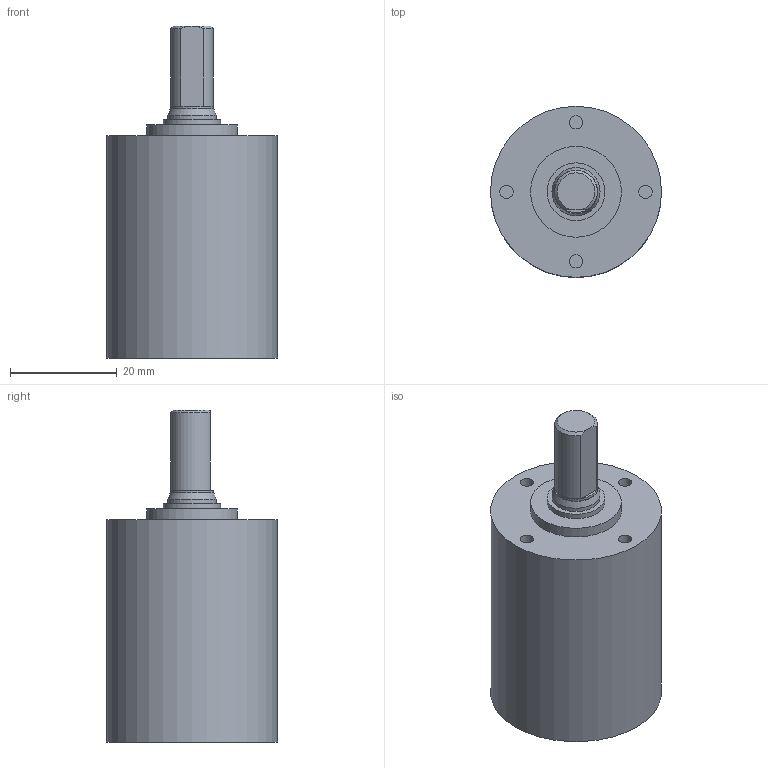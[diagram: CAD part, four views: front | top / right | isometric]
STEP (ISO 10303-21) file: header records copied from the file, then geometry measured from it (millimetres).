
FILE_DESCRIPTION(/* description */ (''),/* implementation_level */ '2;1');
FILE_NAME(/* name */ '32-3_2.stp',/* time_stamp */ '2016-09-07T14:17:50+02:00',/* author */ ('DR. FRITZ FAULHABER GmbH & Co. KG'),/* organization */ ('DR. FRITZ FAULHABER GmbH & Co. KG'),/* preprocessor_version */ 'ST-DEVELOPER v16',/* originating_system */ 'SIEMENS PLM Software NX 10.0',/* authorisation */ '');
FILE_SCHEMA (('AUTOMOTIVE_DESIGN { 1 0 10303 214 3 1 1 1 }'));
Length unit declared in the file: millimetre
Products named in the file (1): H00000651_A
Bounding box: 32 x 32 x 62.1 mm (x, y, z)
Volume: 26742.3 mm3; surface area: 7765.1 mm2
Topology: 1 solids, 1 shells, 39 faces, 87 edges, 70 vertices
Faces by surface type: plane 19, cylinder 17, cone 3
Full cylindrical faces by diameter (mm): 2.5 x4, 4 x1, 7.9 x1, 9 x1, 10.8 x1, 11.8 x1, 12.2 x1, 17 x1, 26.9 x1, 27.57 x1, 30 x1, 30.459 x1, 32 x1
Entity records: 1021 total; most frequent: DIRECTION 191, CARTESIAN_POINT 151, ORIENTED_EDGE 90, AXIS2_PLACEMENT_3D 90, EDGE_LOOP 71, FACE_BOUND 62, CIRCLE 50, EDGE_CURVE 45
